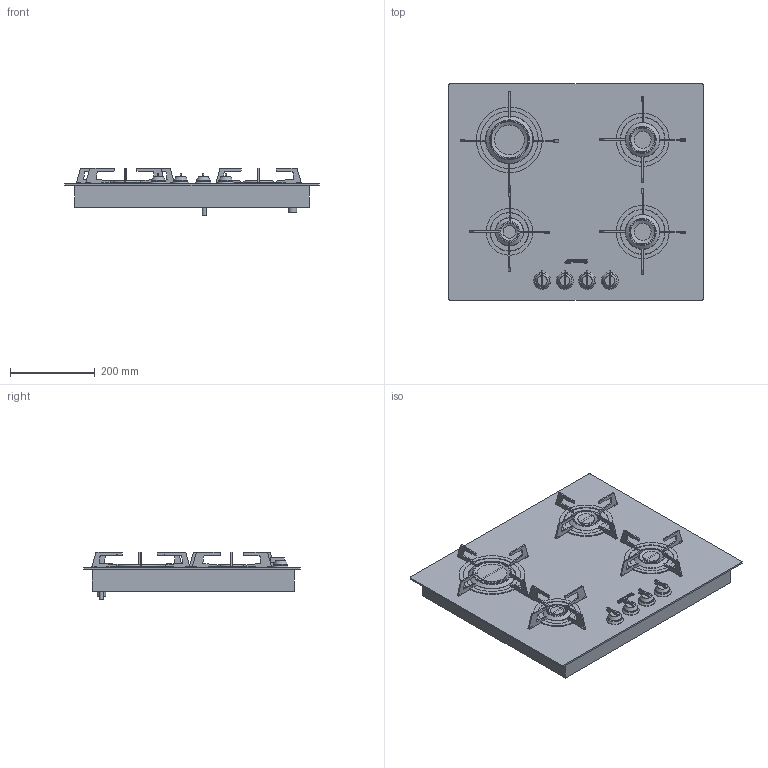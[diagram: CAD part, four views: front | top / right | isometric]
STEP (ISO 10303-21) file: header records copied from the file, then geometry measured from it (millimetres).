
FILE_DESCRIPTION(/* description */ (''),/* implementation_level */ '2;1');
FILE_NAME(/* name */ 'piano pvl664cn.stp',/* time_stamp */ '2018-10-29T17:49:55+01:00',/* author */ (''),/* organization */ (''),/* preprocessor_version */ 'ST-DEVELOPER v16',/* originating_system */ 'SIEMENS PLM Software NX 11.0',/* authorisation */ '');
FILE_SCHEMA (('AUTOMOTIVE_DESIGN { 1 0 10303 214 3 1 1 1 }'));
Length unit declared in the file: millimetre
Products named in the file (1): gobbF228C1C8cnz6
Bounding box: 600 x 510 x 112.16 mm (x, y, z)
Volume: 14618064.3 mm3; surface area: 1560580.9 mm2
Topology: 68 solids, 68 shells, 744 faces, 1822 edges, 1333 vertices
Faces by surface type: plane 494, cylinder 214, cone 20, extrusion 11, torus 5
Full cylindrical faces by diameter (mm): 0.221 x1, 4.608 x6, 5 x4, 10 x1, 20 x2, 25 x4, 30 x1, 40 x6, 43 x1, 47 x1, 58 x2, 62 x2, 65 x1, 67 x1, 70 x1, 80 x2, 82 x2, 88 x1, 90 x1, 91 x1, 92 x1, 98 x1, 105 x2, 106 x2, 110 x2, 113 x3, 125 x2, 136 x2, 143 x1, 155 x1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
Entity records: 22273 total; most frequent: CARTESIAN_POINT 4031, DIRECTION 3662, ORIENTED_EDGE 3268, EDGE_CURVE 1634, AXIS2_PLACEMENT_3D 1234, VECTOR 1194, LINE 1183, VERTEX_POINT 1130
